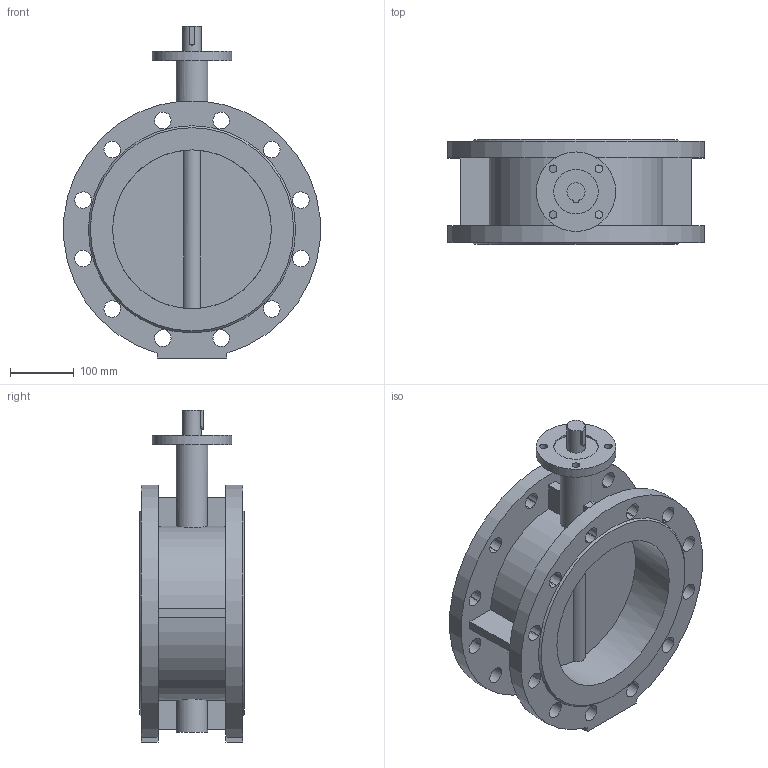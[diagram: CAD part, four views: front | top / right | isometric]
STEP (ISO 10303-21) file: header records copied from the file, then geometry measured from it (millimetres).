
FILE_DESCRIPTION(('STEP AP203'), '1');
FILE_NAME('Çàòâîð 021F.Y DN250 PN10_16 ïîä ÝÏ', '', ('UNSPECIFIED'), ('UNSPECIFIED'), 'ASCON STEP Converter 1.6', 'ASCON Math Kernel', '');
FILE_SCHEMA(('CONFIG_CONTROL_DESIGN'));
Length unit declared in the file: millimetre
Bounding box: 403.72 x 165 x 522.5 mm (x, y, z)
Volume: 6642401.4 mm3; surface area: 789138.5 mm2
Topology: 1 solids, 1 shells, 160 faces, 447 edges, 298 vertices
Faces by surface type: plane 90, cylinder 68, cone 2
Full cylindrical faces by diameter (mm): 12 x4, 28.5 x1, 50 x2, 70 x1, 125 x1, 250 x2
Entity records: 7439 total; most frequent: CARTESIAN_POINT 1814, DIRECTION 887, ORIENTED_EDGE 868, EDGE_CURVE 434, AXIS2_PLACEMENT_3D 303, VERTEX_POINT 298, LINE 281, VECTOR 281
